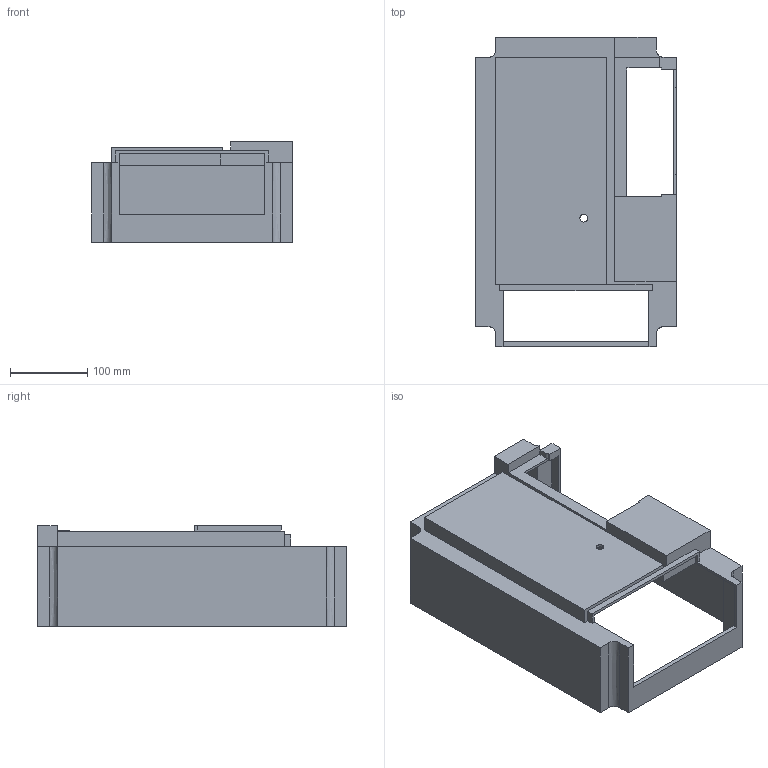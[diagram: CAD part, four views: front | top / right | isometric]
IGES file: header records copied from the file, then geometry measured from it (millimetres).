
Start section:  PTC IGES file: j3-11-22k-case1.igs
Global section: file name: j3-11-22k-case1.igs; native system: Pro/ENGINEER by Parametric Technology Corporation; preprocessor: 2006420; author: JE18792; organization: Unknown; date: 20101129.152513; units: millimetre
Bounding box: 260 x 400 x 130 mm (x, y, z)
Volume: 775976.8 mm3; surface area: 445345.9 mm2
Topology: 1 solids, 1 shells, 92 faces, 272 edges, 179 vertices
Faces by surface type: bspline 92
